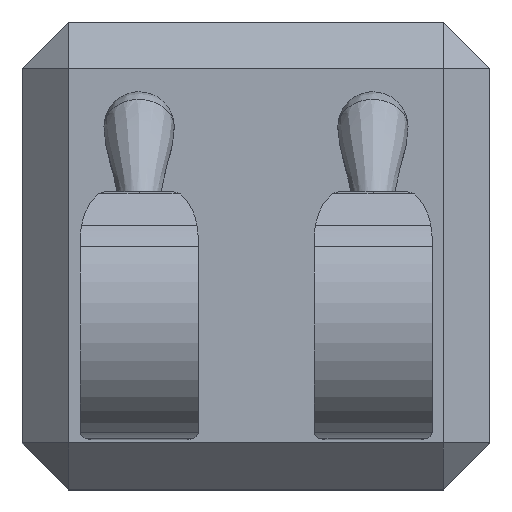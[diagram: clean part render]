
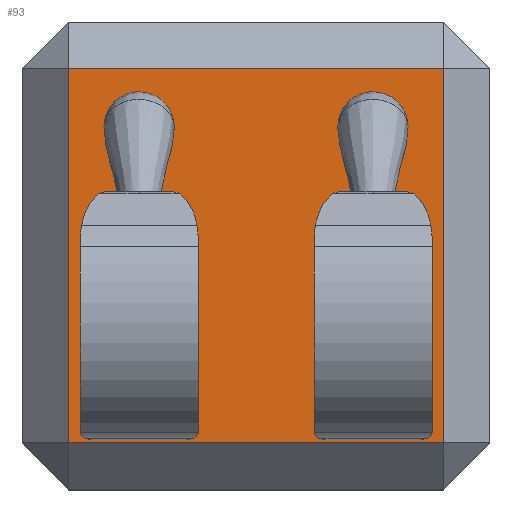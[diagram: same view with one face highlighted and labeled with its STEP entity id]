
A CAD part, top view. The second image highlights one B-rep face of the part: STEP entity #93.
In plain terms, the highlighted planar face has unit normal (0, 0, 1).
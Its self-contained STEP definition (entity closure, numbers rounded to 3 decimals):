
#16=FACE_BOUND('',#304,.T.);
#17=FACE_BOUND('',#305,.T.);
#18=FACE_BOUND('',#306,.T.);
#19=FACE_BOUND('',#307,.T.);
#93=ADVANCED_FACE('',(#197,#16,#17,#18,#19),#1479,.T.);
#197=FACE_OUTER_BOUND('',#303,.T.);
#303=EDGE_LOOP('',(#694,#695,#696,#697));
#304=EDGE_LOOP('',(#698,#699));
#305=EDGE_LOOP('',(#700,#701));
#306=EDGE_LOOP('',(#702,#703));
#307=EDGE_LOOP('',(#704,#705));
#694=ORIENTED_EDGE('',*,*,#1018,.T.);
#695=ORIENTED_EDGE('',*,*,#1020,.T.);
#696=ORIENTED_EDGE('',*,*,#1021,.F.);
#697=ORIENTED_EDGE('',*,*,#1019,.F.);
#698=ORIENTED_EDGE('',*,*,#1005,.T.);
#699=ORIENTED_EDGE('',*,*,#1075,.T.);
#700=ORIENTED_EDGE('',*,*,#1004,.T.);
#701=ORIENTED_EDGE('',*,*,#1072,.T.);
#702=ORIENTED_EDGE('',*,*,#917,.T.);
#703=ORIENTED_EDGE('',*,*,#1064,.T.);
#704=ORIENTED_EDGE('',*,*,#916,.T.);
#705=ORIENTED_EDGE('',*,*,#1061,.T.);
#916=EDGE_CURVE('',#1374,#1458,#1102,.T.);
#917=EDGE_CURVE('',#1375,#1460,#1103,.T.);
#1004=EDGE_CURVE('',#1428,#1465,#1130,.T.);
#1005=EDGE_CURVE('',#1429,#1467,#1131,.T.);
#1018=EDGE_CURVE('',#1442,#1443,#1282,.T.);
#1019=EDGE_CURVE('',#1442,#1444,#1283,.T.);
#1020=EDGE_CURVE('',#1443,#1445,#1284,.T.);
#1021=EDGE_CURVE('',#1444,#1445,#1285,.T.);
#1061=EDGE_CURVE('',#1458,#1374,#1138,.T.);
#1064=EDGE_CURVE('',#1460,#1375,#1140,.T.);
#1072=EDGE_CURVE('',#1465,#1428,#1147,.T.);
#1075=EDGE_CURVE('',#1467,#1429,#1149,.T.);
#1102=(
BOUNDED_CURVE()
B_SPLINE_CURVE(2,(#4772,#4773,#4774,#4775,#4776),.UNSPECIFIED.,.F.,.F.)
B_SPLINE_CURVE_WITH_KNOTS((3,2,3),(-1.885,-1.414,
-0.942),.UNSPECIFIED.)
CURVE()
GEOMETRIC_REPRESENTATION_ITEM()
RATIONAL_B_SPLINE_CURVE((1.,0.707,1.,0.707,1.))
REPRESENTATION_ITEM('')
);
#1103=(
BOUNDED_CURVE()
B_SPLINE_CURVE(2,(#4777,#4778,#4779,#4780,#4781),.UNSPECIFIED.,.F.,.F.)
B_SPLINE_CURVE_WITH_KNOTS((3,2,3),(0.,0.471,0.942),
 .UNSPECIFIED.)
CURVE()
GEOMETRIC_REPRESENTATION_ITEM()
RATIONAL_B_SPLINE_CURVE((1.,0.707,1.,0.707,1.))
REPRESENTATION_ITEM('')
);
#1130=(
BOUNDED_CURVE()
B_SPLINE_CURVE(2,(#5488,#5489,#5490,#5491,#5492),.UNSPECIFIED.,.F.,.F.)
B_SPLINE_CURVE_WITH_KNOTS((3,2,3),(-1.885,-1.414,
-0.942),.UNSPECIFIED.)
CURVE()
GEOMETRIC_REPRESENTATION_ITEM()
RATIONAL_B_SPLINE_CURVE((1.,0.707,1.,0.707,1.))
REPRESENTATION_ITEM('')
);
#1131=(
BOUNDED_CURVE()
B_SPLINE_CURVE(2,(#5493,#5494,#5495,#5496,#5497),.UNSPECIFIED.,.F.,.F.)
B_SPLINE_CURVE_WITH_KNOTS((3,2,3),(0.,0.471,0.942),
 .UNSPECIFIED.)
CURVE()
GEOMETRIC_REPRESENTATION_ITEM()
RATIONAL_B_SPLINE_CURVE((1.,0.707,1.,0.707,1.))
REPRESENTATION_ITEM('')
);
#1138=(
BOUNDED_CURVE()
B_SPLINE_CURVE(2,(#5621,#5622,#5623,#5624,#5625),.UNSPECIFIED.,.F.,.F.)
B_SPLINE_CURVE_WITH_KNOTS((3,2,3),(-0.942,-0.471,
0.),.UNSPECIFIED.)
CURVE()
GEOMETRIC_REPRESENTATION_ITEM()
RATIONAL_B_SPLINE_CURVE((1.,0.707,1.,0.707,1.))
REPRESENTATION_ITEM('')
);
#1140=(
BOUNDED_CURVE()
B_SPLINE_CURVE(2,(#5632,#5633,#5634,#5635,#5636),.UNSPECIFIED.,.F.,.F.)
B_SPLINE_CURVE_WITH_KNOTS((3,2,3),(0.942,1.414,1.885),
 .UNSPECIFIED.)
CURVE()
GEOMETRIC_REPRESENTATION_ITEM()
RATIONAL_B_SPLINE_CURVE((1.,0.707,1.,0.707,1.))
REPRESENTATION_ITEM('')
);
#1147=(
BOUNDED_CURVE()
B_SPLINE_CURVE(2,(#5664,#5665,#5666,#5667,#5668),.UNSPECIFIED.,.F.,.F.)
B_SPLINE_CURVE_WITH_KNOTS((3,2,3),(-0.942,-0.471,
0.),.UNSPECIFIED.)
CURVE()
GEOMETRIC_REPRESENTATION_ITEM()
RATIONAL_B_SPLINE_CURVE((1.,0.707,1.,0.707,1.))
REPRESENTATION_ITEM('')
);
#1149=(
BOUNDED_CURVE()
B_SPLINE_CURVE(2,(#5675,#5676,#5677,#5678,#5679),.UNSPECIFIED.,.F.,.F.)
B_SPLINE_CURVE_WITH_KNOTS((3,2,3),(0.942,1.414,1.885),
 .UNSPECIFIED.)
CURVE()
GEOMETRIC_REPRESENTATION_ITEM()
RATIONAL_B_SPLINE_CURVE((1.,0.707,1.,0.707,1.))
REPRESENTATION_ITEM('')
);
#1282=B_SPLINE_CURVE_WITH_KNOTS('',1,(#5522,#5523),.UNSPECIFIED.,.F.,.F.,
(2,2),(0.4,3.6),.UNSPECIFIED.);
#1283=B_SPLINE_CURVE_WITH_KNOTS('',1,(#5524,#5525),.UNSPECIFIED.,.F.,.F.,
(2,2),(0.4,3.6),.UNSPECIFIED.);
#1284=B_SPLINE_CURVE_WITH_KNOTS('',1,(#5526,#5527),.UNSPECIFIED.,.F.,.F.,
(2,2),(0.4,3.6),.UNSPECIFIED.);
#1285=B_SPLINE_CURVE_WITH_KNOTS('',1,(#5528,#5529),.UNSPECIFIED.,.F.,.F.,
(2,2),(0.4,3.6),.UNSPECIFIED.);
#1374=VERTEX_POINT('',#3972);
#1375=VERTEX_POINT('',#3973);
#1428=VERTEX_POINT('',#4026);
#1429=VERTEX_POINT('',#4027);
#1442=VERTEX_POINT('',#4040);
#1443=VERTEX_POINT('',#4041);
#1444=VERTEX_POINT('',#4042);
#1445=VERTEX_POINT('',#4043);
#1458=VERTEX_POINT('',#4056);
#1460=VERTEX_POINT('',#4058);
#1465=VERTEX_POINT('',#4063);
#1467=VERTEX_POINT('',#4065);
#1479=PLANE('',#1685);
#1685=AXIS2_PLACEMENT_3D('',#3555,#1748,$);
#1748=DIRECTION('',(0.,0.,1.));
#3555=CARTESIAN_POINT('',(2.,-2.,2.));
#3972=CARTESIAN_POINT('',(-1.,-1.294,2.));
#3973=CARTESIAN_POINT('',(-1.,1.4,2.));
#4026=CARTESIAN_POINT('',(1.,-1.294,2.));
#4027=CARTESIAN_POINT('',(1.,1.4,2.));
#4040=CARTESIAN_POINT('',(-1.6,1.6,2.));
#4041=CARTESIAN_POINT('',(-1.6,-1.6,2.));
#4042=CARTESIAN_POINT('',(1.6,1.6,2.));
#4043=CARTESIAN_POINT('',(1.6,-1.6,2.));
#4056=CARTESIAN_POINT('',(-1.,-0.706,2.));
#4058=CARTESIAN_POINT('',(-1.,0.8,2.));
#4063=CARTESIAN_POINT('',(1.,-0.706,2.));
#4065=CARTESIAN_POINT('',(1.,0.8,2.));
#4772=CARTESIAN_POINT('',(-1.,-1.294,2.));
#4773=CARTESIAN_POINT('',(-1.294,-1.294,2.));
#4774=CARTESIAN_POINT('',(-1.294,-1.,2.));
#4775=CARTESIAN_POINT('',(-1.294,-0.706,2.));
#4776=CARTESIAN_POINT('',(-1.,-0.706,2.));
#4777=CARTESIAN_POINT('',(-1.,1.4,2.));
#4778=CARTESIAN_POINT('',(-0.7,1.4,2.));
#4779=CARTESIAN_POINT('',(-0.7,1.1,2.));
#4780=CARTESIAN_POINT('',(-0.7,0.8,2.));
#4781=CARTESIAN_POINT('',(-1.,0.8,2.));
#5488=CARTESIAN_POINT('',(1.,-1.294,2.));
#5489=CARTESIAN_POINT('',(0.706,-1.294,2.));
#5490=CARTESIAN_POINT('',(0.706,-1.,2.));
#5491=CARTESIAN_POINT('',(0.706,-0.706,2.));
#5492=CARTESIAN_POINT('',(1.,-0.706,2.));
#5493=CARTESIAN_POINT('',(1.,1.4,2.));
#5494=CARTESIAN_POINT('',(1.3,1.4,2.));
#5495=CARTESIAN_POINT('',(1.3,1.1,2.));
#5496=CARTESIAN_POINT('',(1.3,0.8,2.));
#5497=CARTESIAN_POINT('',(1.,0.8,2.));
#5522=CARTESIAN_POINT('',(-1.6,1.6,2.));
#5523=CARTESIAN_POINT('',(-1.6,-1.6,2.));
#5524=CARTESIAN_POINT('',(-1.6,1.6,2.));
#5525=CARTESIAN_POINT('',(1.6,1.6,2.));
#5526=CARTESIAN_POINT('',(-1.6,-1.6,2.));
#5527=CARTESIAN_POINT('',(1.6,-1.6,2.));
#5528=CARTESIAN_POINT('',(1.6,1.6,2.));
#5529=CARTESIAN_POINT('',(1.6,-1.6,2.));
#5621=CARTESIAN_POINT('',(-1.,-0.706,2.));
#5622=CARTESIAN_POINT('',(-0.706,-0.706,2.));
#5623=CARTESIAN_POINT('',(-0.706,-1.,2.));
#5624=CARTESIAN_POINT('',(-0.706,-1.294,2.));
#5625=CARTESIAN_POINT('',(-1.,-1.294,2.));
#5632=CARTESIAN_POINT('',(-1.,0.8,2.));
#5633=CARTESIAN_POINT('',(-1.3,0.8,2.));
#5634=CARTESIAN_POINT('',(-1.3,1.1,2.));
#5635=CARTESIAN_POINT('',(-1.3,1.4,2.));
#5636=CARTESIAN_POINT('',(-1.,1.4,2.));
#5664=CARTESIAN_POINT('',(1.,-0.706,2.));
#5665=CARTESIAN_POINT('',(1.294,-0.706,2.));
#5666=CARTESIAN_POINT('',(1.294,-1.,2.));
#5667=CARTESIAN_POINT('',(1.294,-1.294,2.));
#5668=CARTESIAN_POINT('',(1.,-1.294,2.));
#5675=CARTESIAN_POINT('',(1.,0.8,2.));
#5676=CARTESIAN_POINT('',(0.7,0.8,2.));
#5677=CARTESIAN_POINT('',(0.7,1.1,2.));
#5678=CARTESIAN_POINT('',(0.7,1.4,2.));
#5679=CARTESIAN_POINT('',(1.,1.4,2.));
